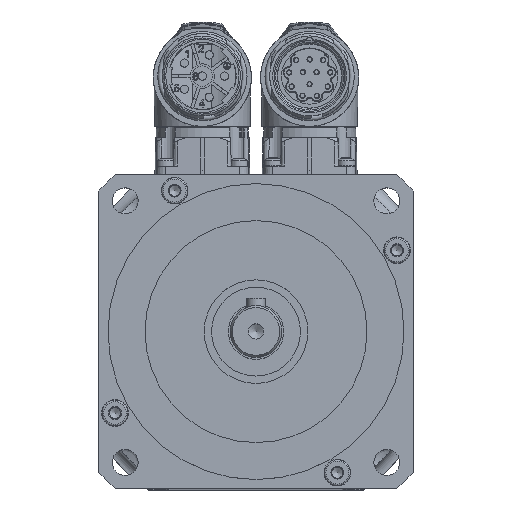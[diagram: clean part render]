
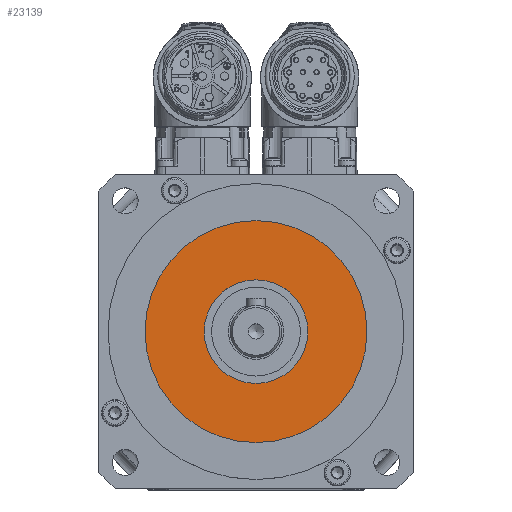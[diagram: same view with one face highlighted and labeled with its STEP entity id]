
A CAD part, top view. The second image highlights one B-rep face of the part: STEP entity #23139.
In plain terms, the highlighted planar face has unit normal (0, 0, 1).
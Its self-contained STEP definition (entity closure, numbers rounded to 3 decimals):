
#3325=FACE_BOUND('',#5294,.T.);
#3326=FACE_BOUND('',#5295,.T.);
#5294=EDGE_LOOP('',(#16139));
#5295=EDGE_LOOP('',(#16140));
#9375=CIRCLE('',#24609,14.);
#9392=CIRCLE('',#24644,30.);
#10478=VERTEX_POINT('',#33221);
#10495=VERTEX_POINT('',#33273);
#12831=EDGE_CURVE('',#10478,#10478,#9375,.T.);
#12848=EDGE_CURVE('',#10495,#10495,#9392,.T.);
#16139=ORIENTED_EDGE('',*,*,#12831,.T.);
#16140=ORIENTED_EDGE('',*,*,#12848,.F.);
#22599=PLANE('',#24643);
#23139=ADVANCED_FACE('',(#3325,#3326),#22599,.F.);
#24609=AXIS2_PLACEMENT_3D('',#33222,#27145,#27146);
#24643=AXIS2_PLACEMENT_3D('',#33272,#27213,#27214);
#24644=AXIS2_PLACEMENT_3D('',#33274,#27215,#27216);
#27145=DIRECTION('center_axis',(0.,0.,-1.));
#27146=DIRECTION('ref_axis',(1.,0.,0.));
#27213=DIRECTION('center_axis',(0.,0.,-1.));
#27214=DIRECTION('ref_axis',(-1.,0.,0.));
#27215=DIRECTION('center_axis',(0.,0.,-1.));
#27216=DIRECTION('ref_axis',(-1.,0.,0.));
#33221=CARTESIAN_POINT('',(14.,0.,10.5));
#33222=CARTESIAN_POINT('Origin',(0.,0.,10.5));
#33272=CARTESIAN_POINT('Origin',(0.,0.,
10.5));
#33273=CARTESIAN_POINT('',(30.,0.,10.5));
#33274=CARTESIAN_POINT('Origin',(0.,0.,10.5));
